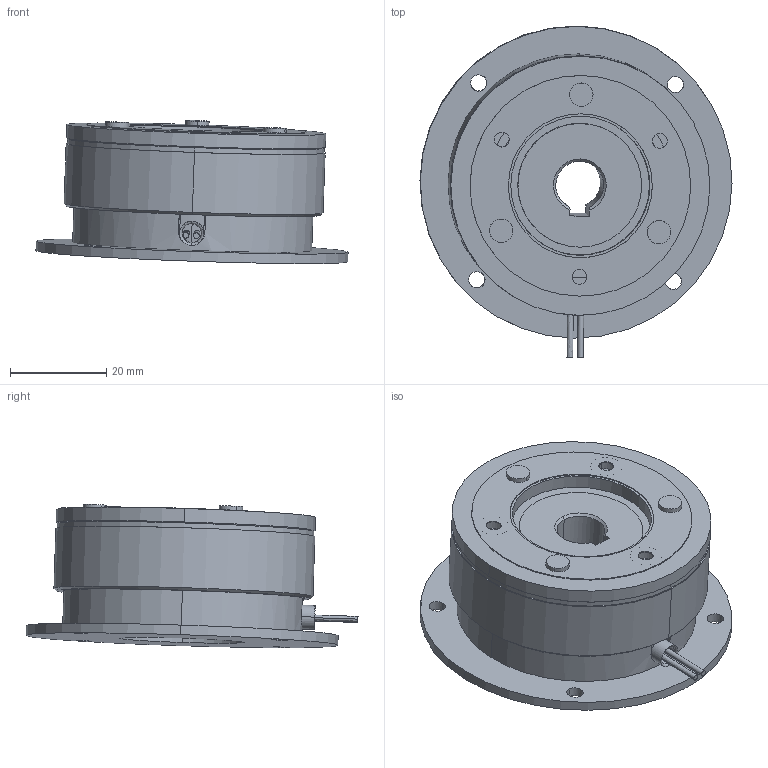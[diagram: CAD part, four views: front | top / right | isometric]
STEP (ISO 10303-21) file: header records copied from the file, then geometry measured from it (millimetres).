
FILE_DESCRIPTION((''),'2;1');
FILE_NAME('G:\Konstruktion\Datenkonvertierung\step\14.100.05.113.stp','2004-02-16T09:16:42',('Schöttelndreier'),(''),'Autodesk Inventor 8','Autodesk Inventor 8','');
FILE_SCHEMA(('AUTOMOTIVE_DESIGN { 1 0 10303 214 1 1 1 1 }'));
Length unit declared in the file: millimetre
Products named in the file (14): 14.100.05.113; 14.100.05.010-001 dxf; 14.100.05.992-300 dxf; 14.100.05.992-001 dxf; Spritzmasse; Reibbelag_05 dxf; 14.100.05.100-001 dxf; 14.100.05.994-105 dxf; 14.100.05.991-001 dxf; Spule_05 dxf; 14.100.05.003-001; 14.100.05.993-001; 14.102.05-53.002; Niet1
Assembly tree (15 placements, depth 3):
  14.100.05.113
    14.100.05.010-001 dxf
      14.100.05.992-300 dxf
      14.100.05.992-001 dxf
      Spritzmasse
      Reibbelag_05 dxf
    14.100.05.100-001 dxf
      14.100.05.994-105 dxf
      14.100.05.991-001 dxf
      Spule_05 dxf
    14.100.05.003-001
      14.100.05.993-001
      14.102.05-53.002
      Niet1  x3
Bounding box: 65.03 x 69.17 x 29.86 mm (x, y, z)
Volume: 49862.1 mm3; surface area: 41601.1 mm2
Topology: 12 solids, 12 shells, 181 faces, 414 edges, 270 vertices
Faces by surface type: cylinder 108, plane 47, cone 21, bspline 3, torus 2
Entity records: 5453 total; most frequent: CARTESIAN_POINT 1068, DIRECTION 954, ORIENTED_EDGE 764, AXIS2_PLACEMENT_3D 405, EDGE_CURVE 382, VERTEX_POINT 250, EDGE_LOOP 224, CIRCLE 216
